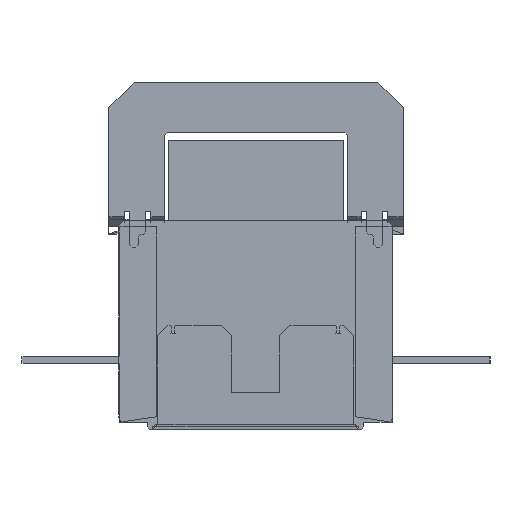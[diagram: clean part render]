
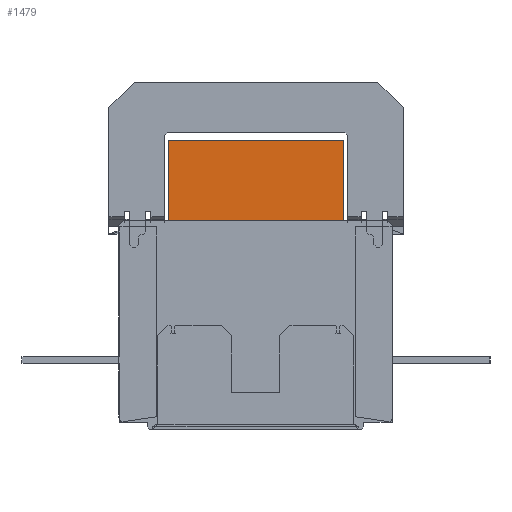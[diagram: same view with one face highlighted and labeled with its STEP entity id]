
A CAD part, front view. The second image highlights one B-rep face of the part: STEP entity #1479.
In plain terms, the highlighted planar face has unit normal (0, -1, 0).
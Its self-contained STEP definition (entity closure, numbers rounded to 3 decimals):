
#1479=ADVANCED_FACE('',(#2092),#11263,.T.);
#2092=FACE_OUTER_BOUND('',#2705,.T.);
#2705=EDGE_LOOP('',(#5994,#5995,#5996,#5997));
#5994=ORIENTED_EDGE('',*,*,#8196,.F.);
#5995=ORIENTED_EDGE('',*,*,#8195,.F.);
#5996=ORIENTED_EDGE('',*,*,#8193,.F.);
#5997=ORIENTED_EDGE('',*,*,#8191,.F.);
#8191=EDGE_CURVE('',#10803,#10802,#9525,.T.);
#8193=EDGE_CURVE('',#10802,#10804,#9527,.T.);
#8195=EDGE_CURVE('',#10804,#10805,#9529,.T.);
#8196=EDGE_CURVE('',#10805,#10803,#9530,.T.);
#9525=B_SPLINE_CURVE_WITH_KNOTS('',1,(#19366,#19367),.UNSPECIFIED.,.F.,
 .F.,(2,2),(0.,17.),.UNSPECIFIED.);
#9527=B_SPLINE_CURVE_WITH_KNOTS('',1,(#19370,#19371),.UNSPECIFIED.,.F.,
 .F.,(2,2),(17.,51.5),.UNSPECIFIED.);
#9529=B_SPLINE_CURVE_WITH_KNOTS('',1,(#19374,#19375),.UNSPECIFIED.,.F.,
 .F.,(2,2),(-8.5,8.5),.UNSPECIFIED.);
#9530=B_SPLINE_CURVE_WITH_KNOTS('',1,(#19376,#19377),.UNSPECIFIED.,.F.,
 .F.,(2,2),(68.5,103.),.UNSPECIFIED.);
#10802=VERTEX_POINT('',#19350);
#10803=VERTEX_POINT('',#19351);
#10804=VERTEX_POINT('',#19352);
#10805=VERTEX_POINT('',#19353);
#11263=PLANE('',#11704);
#11704=AXIS2_PLACEMENT_3D('',#19345,#12059,$);
#12059=DIRECTION('',(0.,-1.,0.));
#19345=CARTESIAN_POINT('',(-21.31,-846.932,-681.993));
#19350=CARTESIAN_POINT('',(17.25,-846.932,-701.302));
#19351=CARTESIAN_POINT('',(17.25,-846.932,-684.302));
#19352=CARTESIAN_POINT('',(-17.25,-846.932,-701.302));
#19353=CARTESIAN_POINT('',(-17.25,-846.932,-684.302));
#19366=CARTESIAN_POINT('',(17.25,-846.932,-684.302));
#19367=CARTESIAN_POINT('',(17.25,-846.932,-701.302));
#19370=CARTESIAN_POINT('',(17.25,-846.932,-701.302));
#19371=CARTESIAN_POINT('',(-17.25,-846.932,-701.302));
#19374=CARTESIAN_POINT('',(-17.25,-846.932,-701.302));
#19375=CARTESIAN_POINT('',(-17.25,-846.932,-684.302));
#19376=CARTESIAN_POINT('',(-17.25,-846.932,-684.302));
#19377=CARTESIAN_POINT('',(17.25,-846.932,-684.302));
